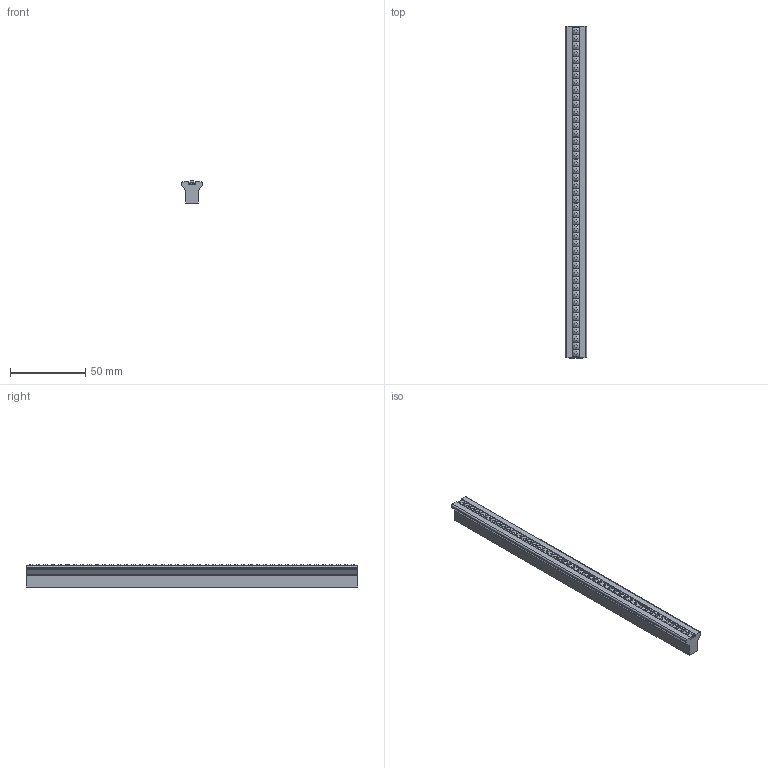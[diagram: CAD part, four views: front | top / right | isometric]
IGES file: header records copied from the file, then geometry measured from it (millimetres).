
Start section: C
Global section: file name: 8193-220 JE.igs; native system: By Siemens PLM Incorporated; preprocessor: XPlus GENERIC/IGES 16.0.42; author: Author; organization: Title; date: 20231116.142530; units: millimetre
Bounding box: 14 x 220 x 14.6 mm (x, y, z)
Surface area: 15299.7 mm2 (no closed solid volume)
Topology: 0 solids, 0 shells, 795 faces, 3400 edges, 3400 vertices
Faces by surface type: bspline 795
